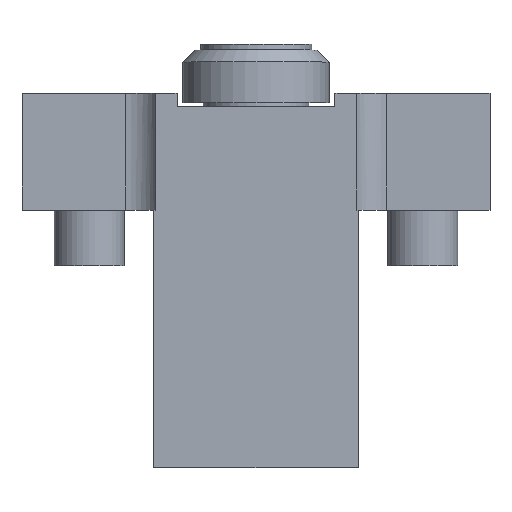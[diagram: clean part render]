
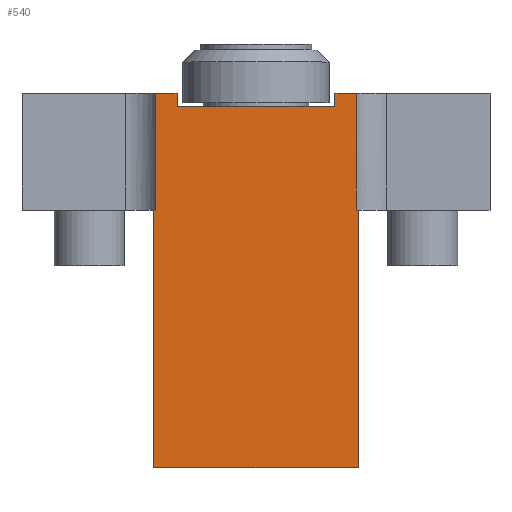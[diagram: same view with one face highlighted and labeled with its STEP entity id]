
A CAD part, top view. The second image highlights one B-rep face of the part: STEP entity #540.
In plain terms, the highlighted planar face has unit normal (0, 0, 1).
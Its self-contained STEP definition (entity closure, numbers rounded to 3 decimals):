
#4 = CARTESIAN_POINT ( 'NONE',  ( -17.177, 0., 16. ) ) ;
#9 = VERTEX_POINT ( 'NONE', #647 ) ;
#18 = DIRECTION ( 'NONE',  ( 1., 0., 0. ) ) ;
#47 = DIRECTION ( 'NONE',  ( 0., 1., 0. ) ) ;
#50 = DIRECTION ( 'NONE',  ( -1., 0., 0. ) ) ;
#56 = VECTOR ( 'NONE', #18, 1000. ) ;
#58 = CARTESIAN_POINT ( 'NONE',  ( 17.177, 0., 16. ) ) ;
#62 = VECTOR ( 'NONE', #1003, 1000. ) ;
#76 = CARTESIAN_POINT ( 'NONE',  ( -17.177, 20., 16. ) ) ;
#78 = CARTESIAN_POINT ( 'NONE',  ( -17.5, -44., 16. ) ) ;
#83 = ORIENTED_EDGE ( 'NONE', *, *, #1362, .F. ) ;
#110 = VECTOR ( 'NONE', #415, 1000. ) ;
#118 = DIRECTION ( 'NONE',  ( 0., 1., 0. ) ) ;
#119 = LINE ( 'NONE', #1264, #56 ) ;
#139 = LINE ( 'NONE', #1084, #62 ) ;
#146 = VERTEX_POINT ( 'NONE', #76 ) ;
#159 = CARTESIAN_POINT ( 'NONE',  ( -17.5, 0., 16. ) ) ;
#176 = CARTESIAN_POINT ( 'NONE',  ( 13.5, 20., 16. ) ) ;
#181 = LINE ( 'NONE', #78, #110 ) ;
#182 = ORIENTED_EDGE ( 'NONE', *, *, #1074, .T. ) ;
#189 = CARTESIAN_POINT ( 'NONE',  ( 17.177, 20., 16. ) ) ;
#195 = VECTOR ( 'NONE', #834, 1000. ) ;
#222 = CARTESIAN_POINT ( 'NONE',  ( -17.5, -44., 16. ) ) ;
#224 = ORIENTED_EDGE ( 'NONE', *, *, #767, .F. ) ;
#231 = DIRECTION ( 'NONE',  ( 1., 0., 0. ) ) ;
#232 = VERTEX_POINT ( 'NONE', #1040 ) ;
#235 = CARTESIAN_POINT ( 'NONE',  ( -17.5, 0., 16. ) ) ;
#252 = EDGE_CURVE ( 'NONE', #232, #979, #119, .T. ) ;
#254 = ORIENTED_EDGE ( 'NONE', *, *, #252, .F. ) ;
#255 = LINE ( 'NONE', #800, #406 ) ;
#280 = VECTOR ( 'NONE', #50, 1000. ) ;
#291 = CARTESIAN_POINT ( 'NONE',  ( -13.5, 20., 16. ) ) ;
#323 = CARTESIAN_POINT ( 'NONE',  ( 13.5, 17.8, 16. ) ) ;
#350 = CARTESIAN_POINT ( 'NONE',  ( 17.5, -44., 16. ) ) ;
#362 = LINE ( 'NONE', #235, #280 ) ;
#391 = CARTESIAN_POINT ( 'NONE',  ( -17.177, 20., 16. ) ) ;
#398 = PLANE ( 'NONE',  #1058 ) ;
#406 = VECTOR ( 'NONE', #680, 1000. ) ;
#409 = DIRECTION ( 'NONE',  ( -1., 0., 0. ) ) ;
#412 = EDGE_CURVE ( 'NONE', #558, #1072, #572, .T. ) ;
#415 = DIRECTION ( 'NONE',  ( -1., 0., 0. ) ) ;
#422 = ORIENTED_EDGE ( 'NONE', *, *, #691, .T. ) ;
#443 = LINE ( 'NONE', #856, #447 ) ;
#447 = VECTOR ( 'NONE', #231, 1000. ) ;
#454 = DIRECTION ( 'NONE',  ( -1., 0., 0. ) ) ;
#457 = CARTESIAN_POINT ( 'NONE',  ( 13.5, 20., 16. ) ) ;
#470 = EDGE_CURVE ( 'NONE', #614, #1148, #362, .T. ) ;
#516 = VECTOR ( 'NONE', #47, 1000. ) ;
#540 = ADVANCED_FACE ( 'NONE', ( #909 ), #398, .F. ) ;
#558 = VERTEX_POINT ( 'NONE', #802 ) ;
#572 = LINE ( 'NONE', #996, #1141 ) ;
#602 = DIRECTION ( 'NONE',  ( 0., -1., 0. ) ) ;
#614 = VERTEX_POINT ( 'NONE', #4 ) ;
#641 = EDGE_CURVE ( 'NONE', #9, #1148, #1062, .T. ) ;
#647 = CARTESIAN_POINT ( 'NONE',  ( -17.5, -44., 16. ) ) ;
#660 = ORIENTED_EDGE ( 'NONE', *, *, #412, .T. ) ;
#680 = DIRECTION ( 'NONE',  ( 0., -1., 0. ) ) ;
#688 = VECTOR ( 'NONE', #1010, 1000. ) ;
#691 = EDGE_CURVE ( 'NONE', #999, #558, #940, .T. ) ;
#767 = EDGE_CURVE ( 'NONE', #1287, #1072, #255, .T. ) ;
#774 = VECTOR ( 'NONE', #602, 1000. ) ;
#799 = ORIENTED_EDGE ( 'NONE', *, *, #470, .T. ) ;
#800 = CARTESIAN_POINT ( 'NONE',  ( 17.177, 20., 16. ) ) ;
#802 = CARTESIAN_POINT ( 'NONE',  ( 17.5, 0., 16. ) ) ;
#804 = CARTESIAN_POINT ( 'NONE',  ( -17.177, 20., 16. ) ) ;
#805 = VERTEX_POINT ( 'NONE', #176 ) ;
#810 = EDGE_CURVE ( 'NONE', #1361, #232, #1347, .T. ) ;
#834 = DIRECTION ( 'NONE',  ( 0., 1., 0. ) ) ;
#856 = CARTESIAN_POINT ( 'NONE',  ( -17.177, 20., 16. ) ) ;
#868 = ORIENTED_EDGE ( 'NONE', *, *, #1049, .F. ) ;
#891 = ORIENTED_EDGE ( 'NONE', *, *, #641, .F. ) ;
#900 = DIRECTION ( 'NONE',  ( 0., 0., -1. ) ) ;
#909 = FACE_OUTER_BOUND ( 'NONE', #1245, .T. ) ;
#940 = LINE ( 'NONE', #1160, #195 ) ;
#979 = VERTEX_POINT ( 'NONE', #323 ) ;
#996 = CARTESIAN_POINT ( 'NONE',  ( -17.5, 0., 16. ) ) ;
#999 = VERTEX_POINT ( 'NONE', #350 ) ;
#1003 = DIRECTION ( 'NONE',  ( 0., -1., 0. ) ) ;
#1010 = DIRECTION ( 'NONE',  ( 1., 0., 0. ) ) ;
#1040 = CARTESIAN_POINT ( 'NONE',  ( -13.5, 17.8, 16. ) ) ;
#1043 = CARTESIAN_POINT ( 'NONE',  ( -13.5, 20., 16. ) ) ;
#1049 = EDGE_CURVE ( 'NONE', #805, #1287, #443, .T. ) ;
#1058 = AXIS2_PLACEMENT_3D ( 'NONE', #391, #900, #409 ) ;
#1062 = LINE ( 'NONE', #222, #1230 ) ;
#1072 = VERTEX_POINT ( 'NONE', #58 ) ;
#1074 = EDGE_CURVE ( 'NONE', #146, #614, #139, .T. ) ;
#1084 = CARTESIAN_POINT ( 'NONE',  ( -17.177, 20., 16. ) ) ;
#1098 = EDGE_CURVE ( 'NONE', #979, #805, #1324, .T. ) ;
#1115 = LINE ( 'NONE', #804, #688 ) ;
#1141 = VECTOR ( 'NONE', #454, 1000. ) ;
#1148 = VERTEX_POINT ( 'NONE', #159 ) ;
#1160 = CARTESIAN_POINT ( 'NONE',  ( 17.5, -44., 16. ) ) ;
#1230 = VECTOR ( 'NONE', #118, 1000. ) ;
#1245 = EDGE_LOOP ( 'NONE', ( #254, #1284, #1302, #182, #799, #891, #83, #422, #660, #224, #868, #1274 ) ) ;
#1264 = CARTESIAN_POINT ( 'NONE',  ( -13.5, 17.8, 16. ) ) ;
#1273 = EDGE_CURVE ( 'NONE', #146, #1361, #1115, .T. ) ;
#1274 = ORIENTED_EDGE ( 'NONE', *, *, #1098, .F. ) ;
#1284 = ORIENTED_EDGE ( 'NONE', *, *, #810, .F. ) ;
#1287 = VERTEX_POINT ( 'NONE', #189 ) ;
#1302 = ORIENTED_EDGE ( 'NONE', *, *, #1273, .F. ) ;
#1324 = LINE ( 'NONE', #457, #516 ) ;
#1347 = LINE ( 'NONE', #1043, #774 ) ;
#1361 = VERTEX_POINT ( 'NONE', #291 ) ;
#1362 = EDGE_CURVE ( 'NONE', #999, #9, #181, .T. ) ;
